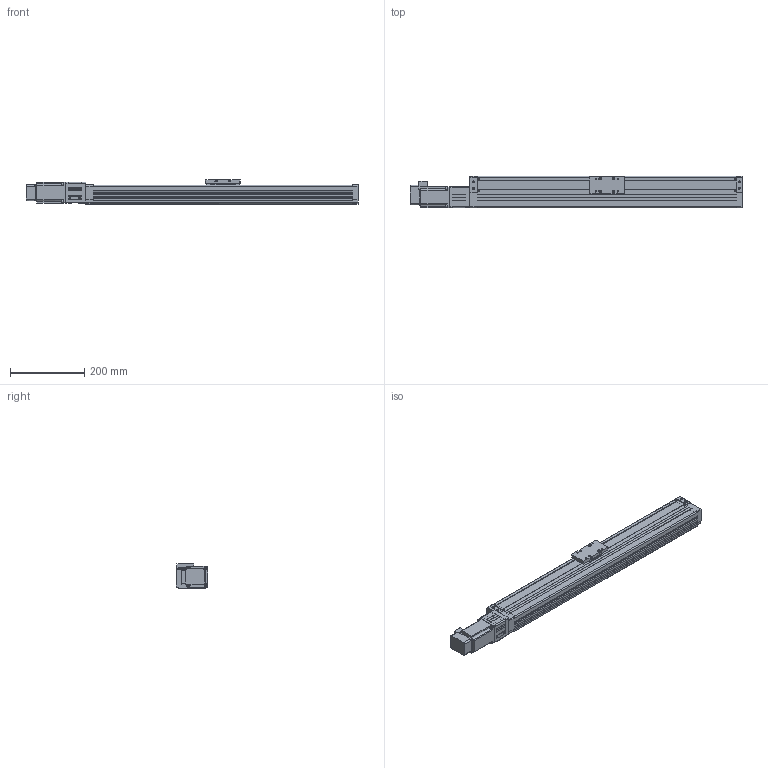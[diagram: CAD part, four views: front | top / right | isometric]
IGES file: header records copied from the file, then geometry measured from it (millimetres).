
Global section: file name: No Iges File Name specified; native system: AutoDesk Inventor R10; preprocessor: AutoDesk Inventor Iges Exporter R10; author: No Author specified; organization: No Organization specified; date: 20110702.133810; units: millimetre
Bounding box: 896.5 x 85 x 65 mm (x, y, z)
Surface area: 529730 mm2 (no closed solid volume)
Topology: 0 solids, 0 shells, 1099 faces, 6820 edges, 6792 vertices
Faces by surface type: bspline 1099
